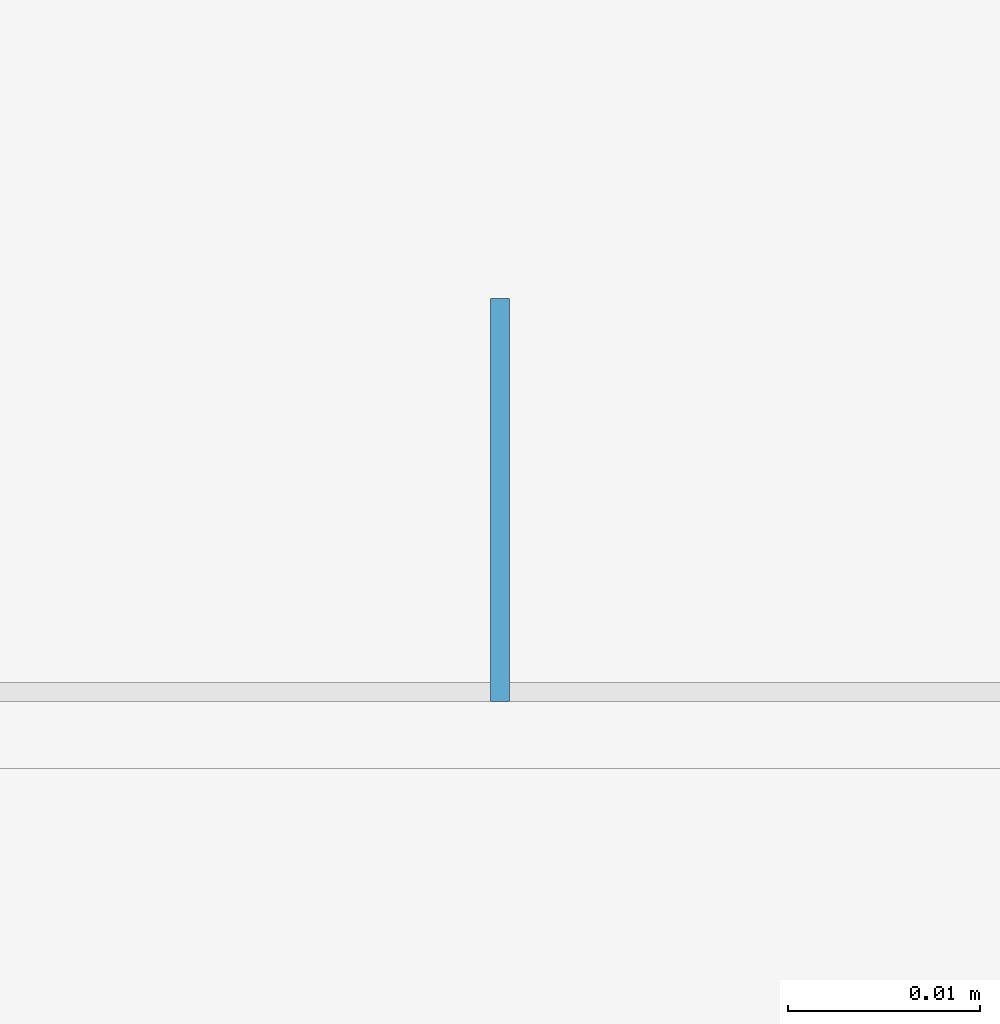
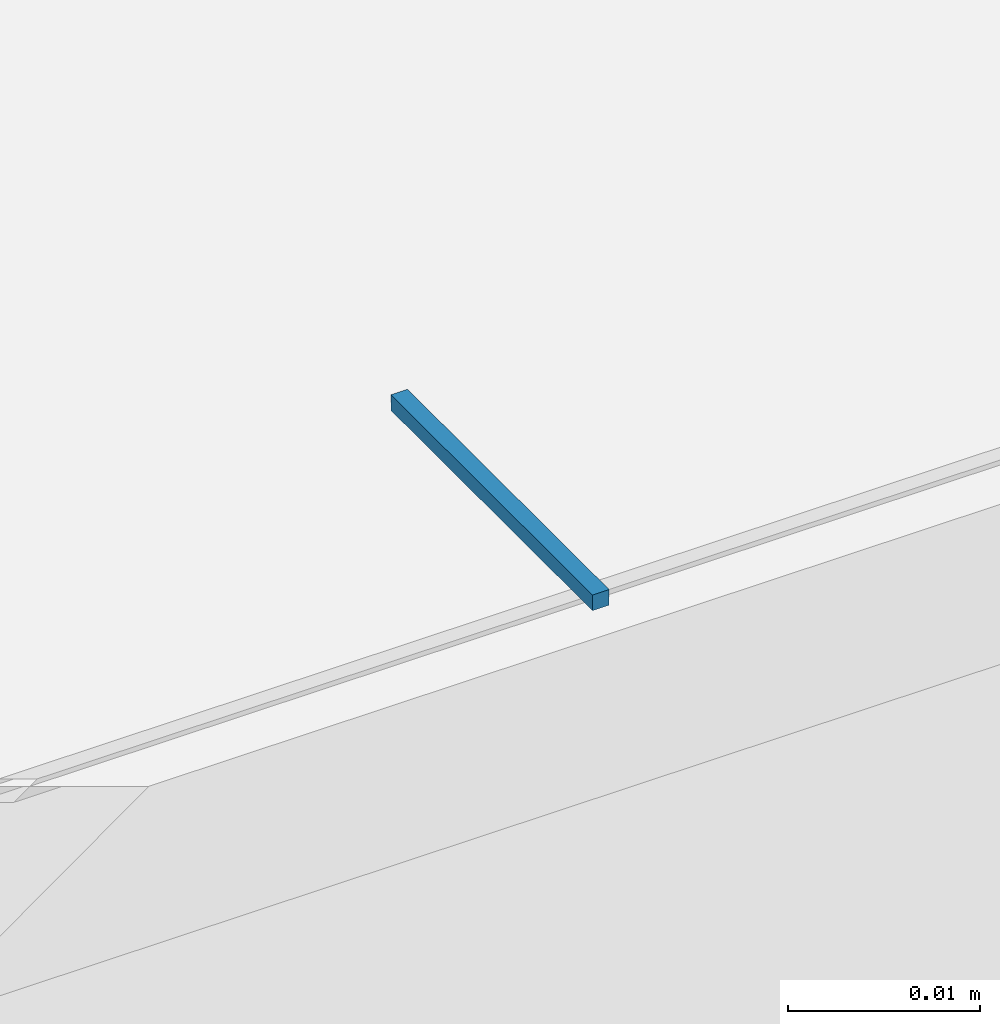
# One storey, part 41 of 230: 1 beam.
"""IFC4X3_ADD2 building model written with IfcOpenShell, lengths in millimetres."""

from ifc_helpers import new_model, si_unit, direction, frame, frame_2d, origin_with_axes, place, context, subcontext, project, spatial, rectangle, extrude, material, element, save


model = new_model("IFC4X3_ADD2")

# Units and contexts
model_context = context("Model", 3, precision=1e-05, world=origin_with_axes(), true_north=direction((0.0, 1.0)))
body_context = subcontext(model_context, "Body", "Model", "MODEL_VIEW")
ifc_project = project(units=[si_unit("LENGTHUNIT", "METRE", prefix="MILLI"), si_unit("AREAUNIT", "SQUARE_METRE"), si_unit("VOLUMEUNIT", "CUBIC_METRE"), si_unit("PLANEANGLEUNIT", "RADIAN"), si_unit("TIMEUNIT", "SECOND"), si_unit("MASSUNIT", "GRAM")], contexts=[model_context])

# Site, building, storey
site_placement = place(None, origin_with_axes())
site = spatial("IfcSite", under=ifc_project, at=site_placement, Name="Site", CompositionType="ELEMENT")
building_placement = place(site_placement, origin_with_axes())
building = spatial("IfcBuilding", under=site, at=building_placement, Name="IFC Building Story")
storey_placement = place(building_placement, origin_with_axes())
storey = spatial("IfcBuildingStorey", under=building, at=storey_placement, Name="ETAGE 00 (0)", Elevation=0.0)

# Beam
ifc_material = material(Name="STEEL/Accessory_invisible")
beam_placement = place(storey_placement, frame((39966.1876471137, -12574.499771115, 3779.5), z_axis=(1.0, 0.0, 0.0), x_axis=(0.0, 0.0, -1.0)))
element("IfcBeam", 1, at=beam_placement, inside=storey, material=ifc_material, Name="ZW1", ObjectType="1*1 4", context=body_context, shape_type="SweptSolid", body=[
    extrude(rectangle(XDim=0.9999999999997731, YDim=20.9999999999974, at=frame_2d((0.0, 5.95523630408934e-12), x_axis=(1.0, 0.0))), origin_with_axes(), (0.0, 0.0, 1.0), 1.0),
])

save(model, "model.ifc")
